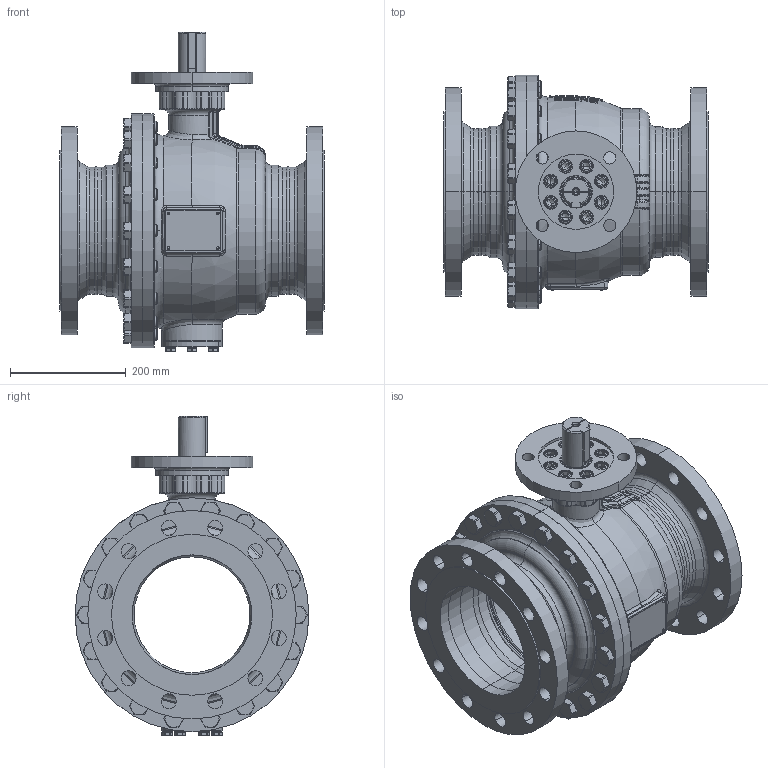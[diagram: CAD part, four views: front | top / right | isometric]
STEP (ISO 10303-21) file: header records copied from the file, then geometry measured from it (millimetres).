
FILE_DESCRIPTION((''),'2;1');
FILE_NAME('KHI-F_200_PN025-F16-P_SW0001','2026-02-05T13:08:53',('fischerkl'),('KLINGER'),'CREO PARAMETRIC BY PTC INC, 2023014','CREO PARAMETRIC BY PTC INC, 2023014','');
FILE_SCHEMA(('CONFIG_CONTROL_DESIGN'));
Products named in the file (1): KHI-F_200_PN025-F16-P_SW0001
Bounding box: 457 x 404 x 552.2 mm (x, y, z)
Volume: 13827022.1 mm3; surface area: 2335515.4 mm2
Topology: 1 solids, 4 shells, 2937 faces, 7332 edges, 4544 vertices
Faces by surface type: plane 1414, cylinder 720, cone 360, torus 305, bspline 108, sphere 30
Entity records: 120845 total; most frequent: CARTESIAN_POINT 51584, ORIENTED_EDGE 14612, DIRECTION 14362, EDGE_CURVE 7306, AXIS2_PLACEMENT_3D 5541, VERTEX_POINT 4544, VECTOR 3280, LINE 3280
